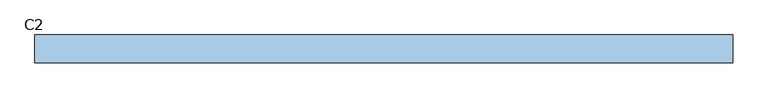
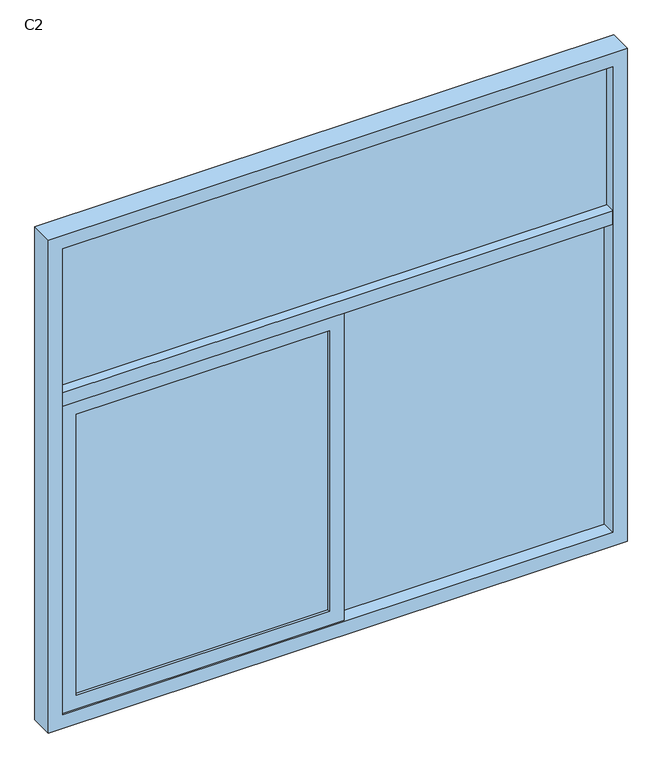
"""IFC4 building model written with IfcOpenShell, lengths in millimetres: window geometry, 组合窗 - 双层单列(固定+推拉) : C2."""

import ifcopenshell
import ifcopenshell.guid

model = None  # the IFC model being written
_history = None  # IfcOwnerHistory: only IFC2X3 demands one
_inside = {}  # id of a spatial element -> (the spatial element, [elements in it])
_under = {}  # id of a project, library or spatial element -> (it, [spatial elements below it])
_declared = {}  # id of a project -> (the project, [libraries it declares])
_typed = {}  # id of a type object -> (the type object, [elements of that type])
_made_of = {}  # id of a material, layer set ... -> (it, [elements and type objects made of it])


def new_model(schema):
    """Start an empty IFC model of exactly this schema.

    Asked for "IFC4X3", IfcOpenShell would pick the latest addendum, in which some entities
    have other attributes; the version numbers below select the first issue.
    IFC2X3 requires an IfcOwnerHistory on every rooted entity: one is made here for all.
    """
    global model, _history
    if schema == "IFC4X3":
        model = ifcopenshell.file(schema_version=(4, 3, 0, 0))
    else:
        model = ifcopenshell.file(schema=schema)
    _inside.clear()
    _under.clear()
    _declared.clear()
    _typed.clear()
    _made_of.clear()
    _history = None
    if model.schema == "IFC2X3":
        org = make("IfcOrganization", Name="unknown")
        user = make(
            "IfcPersonAndOrganization",
            ThePerson=make("IfcPerson", FamilyName="unknown"),
            TheOrganization=org,
        )
        app = make(
            "IfcApplication",
            ApplicationDeveloper=org,
            Version="unknown",
            ApplicationFullName="unknown",
            ApplicationIdentifier="unknown",
        )
        _history = make(
            "IfcOwnerHistory",
            OwningUser=user,
            OwningApplication=app,
            ChangeAction="ADDED",
            CreationDate=0,
        )
    return model


def make(cls, **values):
    """One entity of the class cls with the attributes given. An attribute that is None is left unset."""
    return model.create_entity(
        cls, **{name: value for name, value in values.items() if value is not None}
    )


def rooted(cls, **values):
    """An entity with a GlobalId (a new one), such as an element, a storey or a relation."""
    return make(cls, GlobalId=ifcopenshell.guid.new(), OwnerHistory=_history, **values)


def si_unit(unit_type, name, prefix=None):
    """IfcSIUnit, for example si_unit("LENGTHUNIT", "METRE", prefix="MILLI")."""
    return make("IfcSIUnit", UnitType=unit_type, Prefix=prefix, Name=name)


def assignment(units):
    """IfcUnitAssignment: the units of a project."""
    return None if units is None else make("IfcUnitAssignment", Units=units)


def point(xyz):
    """IfcCartesianPoint."""
    return None if xyz is None else make("IfcCartesianPoint", Coordinates=xyz)


def direction(xyz):
    """IfcDirection."""
    return None if xyz is None else make("IfcDirection", DirectionRatios=xyz)


def frame(location, z_axis=None, x_axis=None):
    """IfcAxis2Placement3D, a coordinate frame: its origin and axes. An axis left out is left unset."""
    return make(
        "IfcAxis2Placement3D",
        Location=point(location),
        Axis=direction(z_axis),
        RefDirection=direction(x_axis),
    )


def origin():
    """The frame at (0, 0, 0) with its axes left unset."""
    return frame((0.0, 0.0, 0.0))


def place(relative_to, where):
    """IfcLocalPlacement: puts the frame where relative to a parent placement (None: the world)."""
    return make(
        "IfcLocalPlacement", PlacementRelTo=relative_to, RelativePlacement=where
    )


def context(
    kind, dimensions, precision=None, world=None, true_north=None, identifier=None
):
    """IfcGeometricRepresentationContext, for example the 3D "Model" context."""
    return make(
        "IfcGeometricRepresentationContext",
        ContextIdentifier=identifier,
        ContextType=kind,
        CoordinateSpaceDimension=dimensions,
        Precision=precision,
        WorldCoordinateSystem=world,
        TrueNorth=true_north,
    )


def project(units=None, contexts=None):
    """IfcProject with its units and contexts."""
    return rooted(
        "IfcProject",
        Name="project",
        RepresentationContexts=contexts,
        UnitsInContext=assignment(units),
    )


def spatial(cls, under=None, at=None, **own):
    """A site, building, storey or space (cls), placed at a placement, below another one or the project."""
    s = rooted(cls, ObjectPlacement=at, **own)
    if under is not None:
        _under.setdefault(under.id(), (under, []))[1].append(s)
    return s


def polyline(points):
    """IfcPolyline through the points."""
    return make("IfcPolyline", Points=[point(p) for p in points])


def outline(outer, holes=None, kind="AREA"):
    """IfcArbitraryClosedProfileDef: a profile drawn as a closed curve; with holes, ...WithVoids."""
    if holes is None:
        return make("IfcArbitraryClosedProfileDef", ProfileType=kind, OuterCurve=outer)
    return make(
        "IfcArbitraryProfileDefWithVoids",
        ProfileType=kind,
        OuterCurve=outer,
        InnerCurves=holes,
    )


def extrude(swept, where, along, depth):
    """IfcExtrudedAreaSolid: the profile swept, set in the frame where, extruded along a direction by depth."""
    return make(
        "IfcExtrudedAreaSolid",
        SweptArea=swept,
        Position=where,
        ExtrudedDirection=direction(along),
        Depth=depth,
    )


def shape(context_of_items, identifier, shape_type, items):
    """IfcShapeRepresentation: the items that make up one representation, for example the "Body"."""
    return make(
        "IfcShapeRepresentation",
        ContextOfItems=context_of_items,
        RepresentationIdentifier=identifier,
        RepresentationType=shape_type,
        Items=items,
    )


def source(mapping_origin, context_of_items, identifier, shape_type, items):
    """IfcRepresentationMap: a shape defined once, which mapped items show again and again."""
    return make(
        "IfcRepresentationMap",
        MappingOrigin=mapping_origin,
        MappedRepresentation=shape(context_of_items, identifier, shape_type, items),
    )


def transform(
    local_origin,
    x_axis=None,
    y_axis=None,
    z_axis=None,
    scale=None,
    scale2=None,
    scale3=None,
    uniform=True,
):
    """IfcCartesianTransformationOperator3D, or its non-uniform kind. x_axis, y_axis, z_axis: its Axis1, 2, 3."""
    if uniform:
        return make(
            "IfcCartesianTransformationOperator3D",
            Axis1=direction(x_axis),
            Axis2=direction(y_axis),
            LocalOrigin=point(local_origin),
            Scale=scale,
            Axis3=direction(z_axis),
        )
    return make(
        "IfcCartesianTransformationOperator3DnonUniform",
        Axis1=direction(x_axis),
        Axis2=direction(y_axis),
        LocalOrigin=point(local_origin),
        Scale=scale,
        Axis3=direction(z_axis),
        Scale2=scale2,
        Scale3=scale3,
    )


def mapped(mapping_source, mapping_target):
    """IfcMappedItem: shows the shape of a source again, moved by a transform."""
    return make(
        "IfcMappedItem", MappingSource=mapping_source, MappingTarget=mapping_target
    )


def made_of(thing, what):
    """Note that an element or type object is made of a material, layer set ...; save() writes the relation."""
    if what is not None:
        _made_of.setdefault(what.id(), (what, []))[1].append(thing)
    return thing


def element(
    cls,
    number,
    at=None,
    inside=None,
    cuts=None,
    type_object=None,
    material=None,
    context=None,
    identifier="Body",
    shape_type=None,
    held_by="IfcProductDefinitionShape",
    body=None,
    shapes=None,
    **own,
):
    """One element of the class cls, such as IfcWall. Its Tag is "e" and its number.

    at: its placement. inside: the storey or other place that contains it. cuts: it is an
    opening in that element (IfcRelVoidsElement). A single representation is given by context,
    identifier, shape_type and body (its items); several are given by shapes. held_by: the class
    of the entity that holds the representations. save() writes the other relations.
    """
    e = rooted(cls, Tag="e%d" % number, ObjectPlacement=at, **own)
    if body is not None:
        shapes = [shape(context, identifier, shape_type, body)]
    if shapes is not None:
        e.Representation = make(held_by, Representations=shapes)
    if inside is not None:
        _inside.setdefault(inside.id(), (inside, []))[1].append(e)
    if cuts is not None:
        rooted(
            "IfcRelVoidsElement", RelatingBuildingElement=cuts, RelatedOpeningElement=e
        )
    if type_object is not None:
        _typed.setdefault(type_object.id(), (type_object, []))[1].append(e)
    return made_of(e, material)


def aggregate(whole, parts):
    """IfcRelAggregates: a whole, such as a stair, and the parts it consists of."""
    return rooted("IfcRelAggregates", RelatingObject=whole, RelatedObjects=parts)


def save(model, path):
    """Write the relations noted so far, then the file.

    IfcRelAggregates (storeys below a building ...), IfcRelContainedInSpatialStructure (elements
    in a storey), IfcRelDefinesByType, IfcRelAssociatesMaterial and IfcRelDeclares: one each for
    every whole, place, type object, material and project.
    """
    for whole, parts in _under.values():
        aggregate(whole, parts)
    for where, things in _inside.values():
        rooted(
            "IfcRelContainedInSpatialStructure",
            RelatedElements=things,
            RelatingStructure=where,
        )
    for kind, things in _typed.values():
        rooted("IfcRelDefinesByType", RelatedObjects=things, RelatingType=kind)
    for what, things in _made_of.values():
        rooted("IfcRelAssociatesMaterial", RelatedObjects=things, RelatingMaterial=what)
    for by, libraries in _declared.values():
        rooted("IfcRelDeclares", RelatingContext=by, RelatedDefinitions=libraries)
    model.write(path)


def c2_93fe3833(model_context):
    return source(origin(), model_context, "Body", "SweptSolid", [
        extrude(outline(polyline([(950.0, 20.0), (-950.0, 20.0), (-950.0, 30.0), (950.0, 30.0), (950.0, 20.0)])), frame((0.0, 0.0, 2225.0), z_axis=(0.0, 0.0, 1.0), x_axis=(1.0, 0.0, 0.0)), (0.0, 0.0, 1.0), 525.0),
        extrude(outline(polyline([(-900.0, 10.0), (-25.0, 10.0), (-25.0, 0.0), (-900.0, 0.0), (-900.0, 10.0)])), frame((0.0, 0.0, 1100.0), z_axis=(0.0, 0.0, 1.0), x_axis=(1.0, 0.0, 0.0)), (0.0, 0.0, 1.0), 1025.0),
        extrude(outline(polyline([(25.0, 45.0), (950.0, 45.0), (950.0, 35.0), (25.0, 35.0), (25.0, 45.0)])), frame((0.0, 0.0, 1050.0), z_axis=(0.0, 0.0, 1.0), x_axis=(1.0, 0.0, 0.0)), (0.0, 0.0, 1.0), 1125.0),
        extrude(outline(polyline([(25.0, 55.0), (25.0, 25.0), (-25.0, 25.0), (-25.0, 55.0), (25.0, 55.0)])), frame((0.0, 0.0, 1050.0), z_axis=(0.0, 0.0, 1.0), x_axis=(1.0, 0.0, 0.0)), (0.0, 0.0, 1.0), 1125.0),
        extrude(outline(polyline([(2175.0, 25.0), (2175.0, -950.0), (1050.0, -950.0), (1050.0, 25.0), (2175.0, 25.0)]), holes=[polyline([(1100.0, -25.0), (1100.0, -900.0), (2125.0, -900.0), (2125.0, -25.0), (1100.0, -25.0)])]), frame((0.0, -10.0, 0.0), z_axis=(0.0, 1.0, 0.0), x_axis=(0.0, 0.0, 1.0)), (0.0, 0.0, 1.0), 30.0),
        extrude(outline(polyline([(-950.0, 65.0), (950.0, 65.0), (950.0, -15.0), (-950.0, -15.0), (-950.0, 65.0)])), frame((0.0, 0.0, 2175.0), z_axis=(0.0, 0.0, 1.0), x_axis=(1.0, 0.0, 0.0)), (0.0, 0.0, 1.0), 50.0),
        extrude(outline(polyline([(2800.0, -1000.0), (1000.0, -1000.0), (1000.0, 1000.0), (2800.0, 1000.0), (2800.0, -1000.0)]), holes=[polyline([(2750.0, 950.0), (1050.0, 950.0), (1050.0, -950.0), (2750.0, -950.0), (2750.0, 950.0)])]), frame((0.0, -15.0, 0.0), z_axis=(0.0, 1.0, 0.0), x_axis=(0.0, 0.0, 1.0)), (0.0, 0.0, 1.0), 80.0),
    ])


if __name__ == "__main__":
    model = new_model("IFC4")
    model_context = context("Model", 3, world=origin())
    ifc_project = project(units=[si_unit("LENGTHUNIT", "METRE", prefix="MILLI")], contexts=[model_context])
    site = spatial("IfcSite", under=ifc_project)
    building = spatial("IfcBuilding", under=site)
    placement = place(None, origin())
    c2_shape = c2_93fe3833(model_context)
    element("IfcWindow", 1, ObjectType="组合窗 - 双层单列(固定+推拉) : C2", at=placement, inside=building, context=model_context, shape_type="MappedRepresentation", body=[
        mapped(c2_shape, transform((0.0, 0.0, 0.0), x_axis=(1.0, 0.0, 0.0), y_axis=(0.0, 1.0, 0.0), z_axis=(0.0, 0.0, 1.0))),
    ])
    save(model, "model.ifc")
